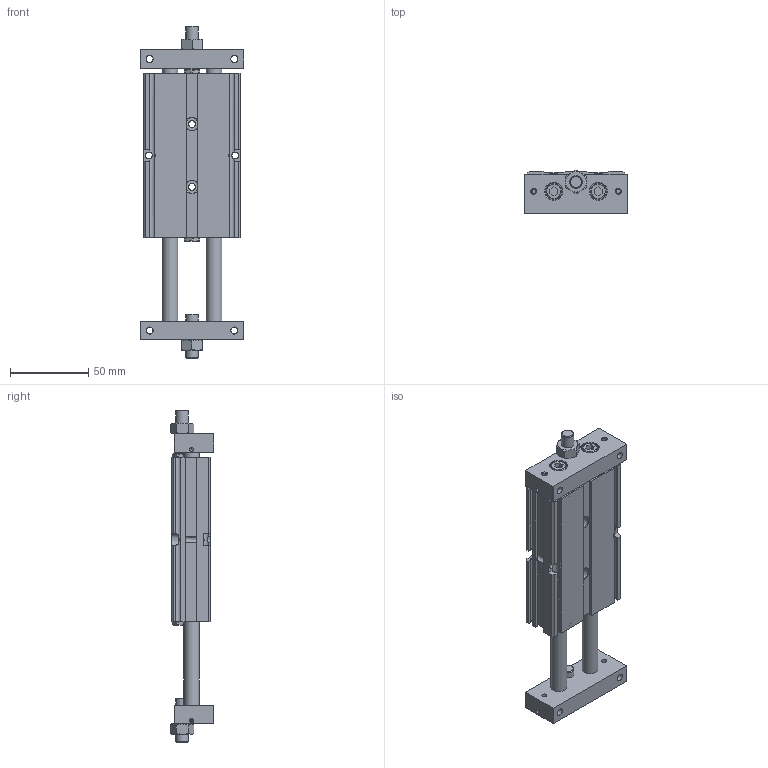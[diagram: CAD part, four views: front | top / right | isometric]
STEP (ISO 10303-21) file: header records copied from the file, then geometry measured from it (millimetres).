
FILE_DESCRIPTION((''),'2;1');
FILE_NAME('I:\3D電子目錄\氣缸\STU\STU\STU20\STU20x50.stp','2007-10-01T10:18:50',('Administrator'),(''),'Autodesk Inventor 11','Autodesk Inventor 11','');
FILE_SCHEMA(('AUTOMOTIVE_DESIGN { 1 0 10303 214 1 1 1 1 }'));
Length unit declared in the file: millimetre
Products named in the file (1): STU20
Bounding box: 66 x 27.51 x 211.5 mm (x, y, z)
Volume: 187423.8 mm3; surface area: 49446 mm2
Topology: 1 solids, 1 shells, 345 faces, 855 edges, 543 vertices
Faces by surface type: plane 166, cone 75, bspline 71, cylinder 29, torus 4
Full cylindrical faces by diameter (mm): 2.459 x2, 8 x6, 10 x6, 11 x4, 22 x2, 23.2 x2
Entity records: 10978 total; most frequent: CARTESIAN_POINT 3643, ORIENTED_EDGE 1470, DIRECTION 1388, EDGE_CURVE 735, EDGE_LOOP 520, VERTEX_POINT 519, AXIS2_PLACEMENT_3D 510, VECTOR 368
